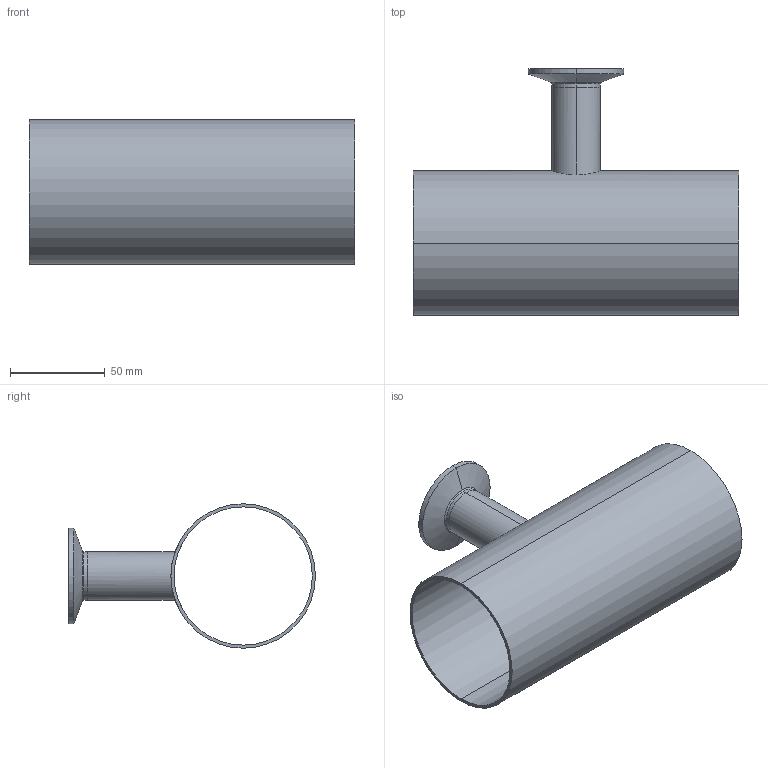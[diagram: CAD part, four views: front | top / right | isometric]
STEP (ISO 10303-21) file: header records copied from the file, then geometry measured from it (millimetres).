
FILE_DESCRIPTION (( 'STEP AP214' ), '1' );
FILE_NAME ('TE7RWWC6L3.0x1.0-...STEP', '2016-05-23T08:42:46', ( 'eran' ), ( '' ), 'SwSTEP 2.0', 'SolidWorks 2016', '' );
FILE_SCHEMA (( 'AUTOMOTIVE_DESIGN' ));
Length unit declared in the file: millimetre
Products named in the file (1): TE7RWWC6L3.0x1.0-..
Bounding box: 171.4 x 130.2 x 76.2 mm (x, y, z)
Volume: 79432.3 mm3; surface area: 91830.4 mm2
Topology: 2 solids, 2 shells, 36 faces, 88 edges, 58 vertices
Faces by surface type: cylinder 14, bspline 10, plane 6, cone 6
Entity records: 1827 total; most frequent: CARTESIAN_POINT 923, DIRECTION 190, ORIENTED_EDGE 176, EDGE_CURVE 88, AXIS2_PLACEMENT_3D 85, CIRCLE 58, VERTEX_POINT 58, EDGE_LOOP 44
